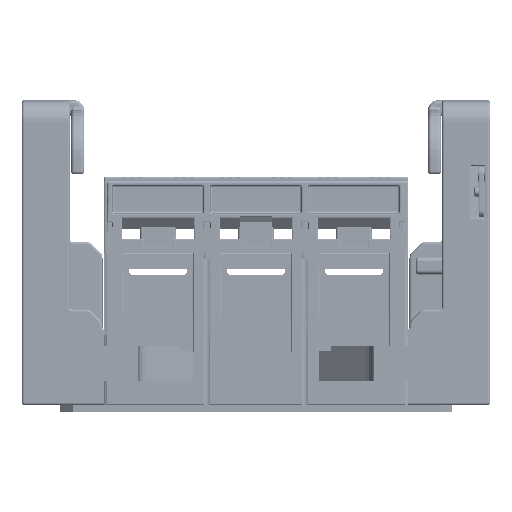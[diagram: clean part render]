
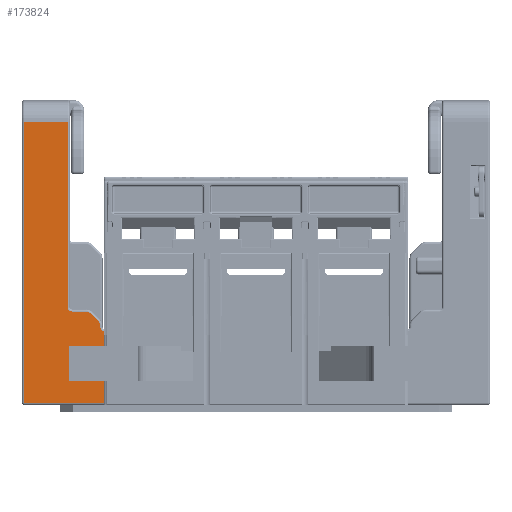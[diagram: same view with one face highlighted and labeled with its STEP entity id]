
A CAD part, front view. The second image highlights one B-rep face of the part: STEP entity #173824.
In plain terms, the highlighted planar face has unit normal (0, -1, 0).
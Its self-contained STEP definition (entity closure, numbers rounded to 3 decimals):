
#69913 = CARTESIAN_POINT ( 'NONE',  ( -81.404, -59.781, 0.416 ) ) ;
#82970 = LINE ( 'NONE', #82979, #83150 ) ;
#82979 = CARTESIAN_POINT ( 'NONE',  ( -81.404, -59.781, -33.514 ) ) ;
#83146 = CARTESIAN_POINT ( 'NONE',  ( -81.404, -59.781, -32.514 ) ) ;
#83148 = DIRECTION ( 'NONE',  ( 0., 0., 1. ) ) ;
#83150 = VECTOR ( 'NONE', #83148, 1000. ) ;
#94590 = CARTESIAN_POINT ( 'NONE',  ( -117.904, -59.781, 96.486 ) ) ;
#94713 = CARTESIAN_POINT ( 'NONE',  ( -97.904, -59.781, 96.486 ) ) ;
#94729 = DIRECTION ( 'NONE',  ( -1., 0., 0. ) ) ;
#94730 = VECTOR ( 'NONE', #94729, 1000. ) ;
#94733 = CARTESIAN_POINT ( 'NONE',  ( -96.904, -59.781, 96.486 ) ) ;
#94734 = LINE ( 'NONE', #94733, #94730 ) ;
#95540 = DIRECTION ( 'NONE',  ( 0.707, 0., -0.707 ) ) ;
#95541 = VECTOR ( 'NONE', #95540, 1000. ) ;
#95543 = CARTESIAN_POINT ( 'NONE',  ( -83.782, -59.781, 4.951 ) ) ;
#95544 = LINE ( 'NONE', #95543, #95541 ) ;
#95631 = CARTESIAN_POINT ( 'NONE',  ( -95.904, -59.781, 9.486 ) ) ;
#95654 = CARTESIAN_POINT ( 'NONE',  ( -89.56, -59.781, 9.486 ) ) ;
#95678 = DIRECTION ( 'NONE',  ( 0., 0., -1. ) ) ;
#95680 = DIRECTION ( 'NONE',  ( 0., 1., 0. ) ) ;
#95681 = CARTESIAN_POINT ( 'NONE',  ( -89.56, -59.781, 6.486 ) ) ;
#95683 = AXIS2_PLACEMENT_3D ( 'NONE', #95681, #95680, #95678 ) ;
#95684 = CIRCLE ( 'NONE', #95683, 3. ) ;
#95692 = CARTESIAN_POINT ( 'NONE',  ( -87.439, -59.781, 8.607 ) ) ;
#95867 = CARTESIAN_POINT ( 'NONE',  ( -117.904, -59.781, -32.514 ) ) ;
#95870 = DIRECTION ( 'NONE',  ( 0., 0., 1. ) ) ;
#95871 = VECTOR ( 'NONE', #95870, 1000. ) ;
#95872 = CARTESIAN_POINT ( 'NONE',  ( -117.904, -59.781, 96.486 ) ) ;
#95874 = LINE ( 'NONE', #95872, #95871 ) ;
#95915 = DIRECTION ( 'NONE',  ( 0., 0., -1. ) ) ;
#95917 = VECTOR ( 'NONE', #95915, 1000. ) ;
#95919 = CARTESIAN_POINT ( 'NONE',  ( -97.904, -59.781, 11.486 ) ) ;
#95920 = LINE ( 'NONE', #95919, #95917 ) ;
#95997 = FACE_OUTER_BOUND ( 'NONE', #173835, .T. ) ;
#96012 = DIRECTION ( 'NONE',  ( -1., 0., 0. ) ) ;
#96014 = VECTOR ( 'NONE', #96012, 1000. ) ;
#96016 = CARTESIAN_POINT ( 'NONE',  ( -96.904, -59.781, -32.514 ) ) ;
#96017 = LINE ( 'NONE', #96016, #96014 ) ;
#96095 = DIRECTION ( 'NONE',  ( 0., 0., -1. ) ) ;
#96097 = DIRECTION ( 'NONE',  ( 0., 1., 0. ) ) ;
#96099 = CARTESIAN_POINT ( 'NONE',  ( -96.904, -59.781, 96.486 ) ) ;
#96101 = AXIS2_PLACEMENT_3D ( 'NONE', #96099, #96097, #96095 ) ;
#96104 = PLANE ( 'NONE',  #96101 ) ;
#96129 = CARTESIAN_POINT ( 'NONE',  ( -83.782, -59.781, 4.951 ) ) ;
#96141 = DIRECTION ( 'NONE',  ( 0., 0., -1. ) ) ;
#96143 = DIRECTION ( 'NONE',  ( 0., 1., 0. ) ) ;
#96145 = CARTESIAN_POINT ( 'NONE',  ( -85.904, -59.781, 2.829 ) ) ;
#96147 = AXIS2_PLACEMENT_3D ( 'NONE', #96145, #96143, #96141 ) ;
#96150 = CIRCLE ( 'NONE', #96147, 3. ) ;
#96172 = CARTESIAN_POINT ( 'NONE',  ( -82.904, -59.781, 2.352 ) ) ;
#96194 = CARTESIAN_POINT ( 'NONE',  ( -82.904, -59.781, 2.829 ) ) ;
#96196 = DIRECTION ( 'NONE',  ( 0., 0., -1. ) ) ;
#96198 = VECTOR ( 'NONE', #96196, 1000. ) ;
#96201 = CARTESIAN_POINT ( 'NONE',  ( -82.904, -59.781, 2.352 ) ) ;
#96202 = LINE ( 'NONE', #96201, #96198 ) ;
#96504 = CARTESIAN_POINT ( 'NONE',  ( -97.904, -59.781, 11.486 ) ) ;
#96507 = DIRECTION ( 'NONE',  ( 0., 0., -1. ) ) ;
#96508 = DIRECTION ( 'NONE',  ( 0., -1., 0. ) ) ;
#96510 = CARTESIAN_POINT ( 'NONE',  ( -95.904, -59.781, 11.486 ) ) ;
#96511 = AXIS2_PLACEMENT_3D ( 'NONE', #96510, #96508, #96507 ) ;
#96512 = CIRCLE ( 'NONE', #96511, 2. ) ;
#96524 = DIRECTION ( 'NONE',  ( 1., 0., 0. ) ) ;
#96525 = VECTOR ( 'NONE', #96524, 1000. ) ;
#96528 = CARTESIAN_POINT ( 'NONE',  ( -89.56, -59.781, 9.486 ) ) ;
#96530 = LINE ( 'NONE', #96528, #96525 ) ;
#96753 = DIRECTION ( 'NONE',  ( 0., 0., -1. ) ) ;
#96757 = DIRECTION ( 'NONE',  ( 0., -1., 0. ) ) ;
#96760 = CARTESIAN_POINT ( 'NONE',  ( -80.904, -59.781, 2.352 ) ) ;
#96763 = AXIS2_PLACEMENT_3D ( 'NONE', #96760, #96757, #96753 ) ;
#96765 = CIRCLE ( 'NONE', #96763, 2. ) ;
#164411 = VERTEX_POINT ( 'NONE', #69913 ) ;
#168920 = EDGE_CURVE ( 'NONE', #168925, #164411, #82970, .T. ) ;
#168925 = VERTEX_POINT ( 'NONE', #83146 ) ;
#173271 = VERTEX_POINT ( 'NONE', #94590 ) ;
#173290 = EDGE_CURVE ( 'NONE', #173295, #173271, #94734, .T. ) ;
#173295 = VERTEX_POINT ( 'NONE', #94713 ) ;
#173650 = ORIENTED_EDGE ( 'NONE', *, *, #173656, .F. ) ;
#173656 = EDGE_CURVE ( 'NONE', #173666, #173895, #95544, .T. ) ;
#173666 = VERTEX_POINT ( 'NONE', #95692 ) ;
#173671 = ORIENTED_EDGE ( 'NONE', *, *, #173679, .F. ) ;
#173679 = EDGE_CURVE ( 'NONE', #173684, #173666, #95684, .T. ) ;
#173684 = VERTEX_POINT ( 'NONE', #95654 ) ;
#173690 = VERTEX_POINT ( 'NONE', #95631 ) ;
#173776 = EDGE_CURVE ( 'NONE', #173295, #174008, #95920, .T. ) ;
#173781 = ORIENTED_EDGE ( 'NONE', *, *, #173290, .T. ) ;
#173789 = ORIENTED_EDGE ( 'NONE', *, *, #173794, .F. ) ;
#173794 = EDGE_CURVE ( 'NONE', #173798, #173271, #95874, .T. ) ;
#173798 = VERTEX_POINT ( 'NONE', #95867 ) ;
#173805 = ORIENTED_EDGE ( 'NONE', *, *, #173811, .F. ) ;
#173811 = EDGE_CURVE ( 'NONE', #168925, #173798, #96017, .T. ) ;
#173824 = ADVANCED_FACE ( 'NONE', ( #95997 ), #96104, .F. ) ;
#173835 = EDGE_LOOP ( 'NONE', ( #173844, #173880, #173650, #173671, #173973, #173992, #174017, #173781, #173789, #173805, #174101, #174109 ) ) ;
#173844 = ORIENTED_EDGE ( 'NONE', *, *, #173857, .F. ) ;
#173857 = EDGE_CURVE ( 'NONE', #173858, #173861, #96202, .T. ) ;
#173858 = VERTEX_POINT ( 'NONE', #96194 ) ;
#173861 = VERTEX_POINT ( 'NONE', #96172 ) ;
#173880 = ORIENTED_EDGE ( 'NONE', *, *, #173887, .F. ) ;
#173887 = EDGE_CURVE ( 'NONE', #173895, #173858, #96150, .T. ) ;
#173895 = VERTEX_POINT ( 'NONE', #96129 ) ;
#173973 = ORIENTED_EDGE ( 'NONE', *, *, #173988, .F. ) ;
#173988 = EDGE_CURVE ( 'NONE', #173690, #173684, #96530, .T. ) ;
#173992 = ORIENTED_EDGE ( 'NONE', *, *, #174003, .F. ) ;
#174003 = EDGE_CURVE ( 'NONE', #174008, #173690, #96512, .T. ) ;
#174008 = VERTEX_POINT ( 'NONE', #96504 ) ;
#174017 = ORIENTED_EDGE ( 'NONE', *, *, #173776, .F. ) ;
#174101 = ORIENTED_EDGE ( 'NONE', *, *, #168920, .T. ) ;
#174109 = ORIENTED_EDGE ( 'NONE', *, *, #174128, .F. ) ;
#174128 = EDGE_CURVE ( 'NONE', #173861, #164411, #96765, .T. ) ;
